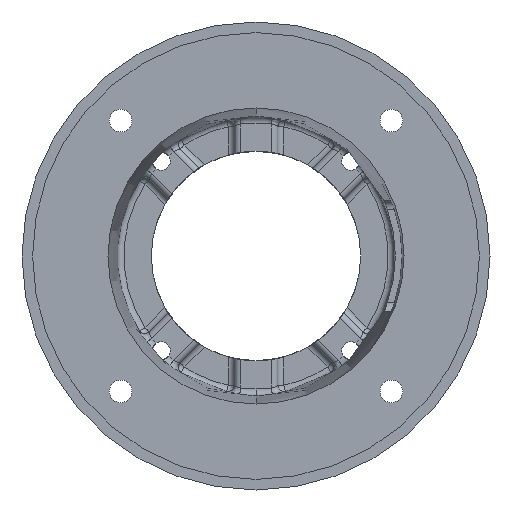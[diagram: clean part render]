
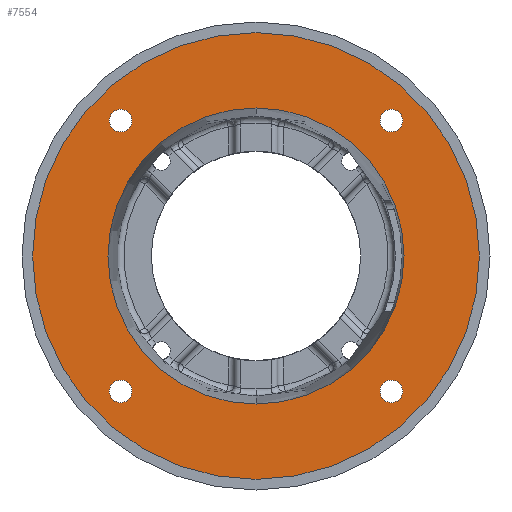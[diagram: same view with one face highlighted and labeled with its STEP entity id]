
A CAD part, front view. The second image highlights one B-rep face of the part: STEP entity #7554.
In plain terms, the highlighted planar face has unit normal (0, -1, 0).
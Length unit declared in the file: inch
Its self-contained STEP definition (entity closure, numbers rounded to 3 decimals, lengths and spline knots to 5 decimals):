
#56 = CIRCLE ( 'NONE', #5977, 0.26562 ) ;
#164 = FACE_OUTER_BOUND ( 'NONE', #5338, .T. ) ;
#324 = DIRECTION ( 'NONE',  ( 0., 0., -1. ) ) ;
#569 = CARTESIAN_POINT ( 'NONE',  ( 0., 0.18, 0. ) ) ;
#626 = DIRECTION ( 'NONE',  ( 0., 0., -1. ) ) ;
#639 = AXIS2_PLACEMENT_3D ( 'NONE', #1661, #9591, #2807 ) ;
#913 = FACE_BOUND ( 'NONE', #11553, .T. ) ;
#1069 = EDGE_CURVE ( 'NONE', #9362, #13966, #6287, .T. ) ;
#1098 = CARTESIAN_POINT ( 'NONE',  ( 3.18198, 0.18, -3.44761 ) ) ;
#1114 = EDGE_CURVE ( 'NONE', #13966, #9362, #11782, .T. ) ;
#1309 = DIRECTION ( 'NONE',  ( 0., -1., 0. ) ) ;
#1535 = EDGE_LOOP ( 'NONE', ( #6764, #6964 ) ) ;
#1562 = AXIS2_PLACEMENT_3D ( 'NONE', #11783, #5169, #12865 ) ;
#1661 = CARTESIAN_POINT ( 'NONE',  ( -3.18198, 0.18, 3.18198 ) ) ;
#1739 = DIRECTION ( 'NONE',  ( 0., 0., -1. ) ) ;
#1976 = DIRECTION ( 'NONE',  ( 0., -1., 0. ) ) ;
#1997 = VERTEX_POINT ( 'NONE', #3609 ) ;
#2085 = EDGE_CURVE ( 'NONE', #3018, #13307, #9582, .T. ) ;
#2229 = EDGE_CURVE ( 'NONE', #8135, #10554, #8881, .T. ) ;
#2246 = CARTESIAN_POINT ( 'NONE',  ( -3.18198, 0.18, -2.91636 ) ) ;
#2419 = CIRCLE ( 'NONE', #12586, 5.2505 ) ;
#2807 = DIRECTION ( 'NONE',  ( 0., 0., -1. ) ) ;
#2975 = ORIENTED_EDGE ( 'NONE', *, *, #8793, .F. ) ;
#3018 = VERTEX_POINT ( 'NONE', #13304 ) ;
#3032 = VERTEX_POINT ( 'NONE', #2246 ) ;
#3242 = FACE_BOUND ( 'NONE', #3506, .T. ) ;
#3403 = ORIENTED_EDGE ( 'NONE', *, *, #9273, .F. ) ;
#3506 = EDGE_LOOP ( 'NONE', ( #13192, #9774 ) ) ;
#3609 = CARTESIAN_POINT ( 'NONE',  ( -3.18198, 0.18, 3.44761 ) ) ;
#3804 = DIRECTION ( 'NONE',  ( 0., 1., 0. ) ) ;
#3947 = CIRCLE ( 'NONE', #11950, 3.47973 ) ;
#4236 = ORIENTED_EDGE ( 'NONE', *, *, #12704, .T. ) ;
#5147 = EDGE_CURVE ( 'NONE', #14151, #3032, #9326, .T. ) ;
#5169 = DIRECTION ( 'NONE',  ( 0., 1., 0. ) ) ;
#5338 = EDGE_LOOP ( 'NONE', ( #13432, #8071 ) ) ;
#5498 = ORIENTED_EDGE ( 'NONE', *, *, #2085, .F. ) ;
#5570 = CIRCLE ( 'NONE', #1562, 3.47973 ) ;
#5669 = DIRECTION ( 'NONE',  ( 0., -1., 0. ) ) ;
#5681 = CARTESIAN_POINT ( 'NONE',  ( -3.18198, 0.18, -3.18198 ) ) ;
#5738 = AXIS2_PLACEMENT_3D ( 'NONE', #13716, #7235, #324 ) ;
#5977 = AXIS2_PLACEMENT_3D ( 'NONE', #5681, #13352, #6828 ) ;
#6093 = DIRECTION ( 'NONE',  ( 0., -1., 0. ) ) ;
#6208 = AXIS2_PLACEMENT_3D ( 'NONE', #12913, #12864, #12676 ) ;
#6287 = CIRCLE ( 'NONE', #6208, 0.26562 ) ;
#6326 = FACE_BOUND ( 'NONE', #14071, .T. ) ;
#6382 = AXIS2_PLACEMENT_3D ( 'NONE', #8193, #1309, #9268 ) ;
#6763 = VERTEX_POINT ( 'NONE', #11982 ) ;
#6764 = ORIENTED_EDGE ( 'NONE', *, *, #1069, .F. ) ;
#6828 = DIRECTION ( 'NONE',  ( 0., 0., -1. ) ) ;
#6883 = AXIS2_PLACEMENT_3D ( 'NONE', #12656, #6093, #13724 ) ;
#6902 = CARTESIAN_POINT ( 'NONE',  ( 3.18198, 0.18, 3.44761 ) ) ;
#6964 = ORIENTED_EDGE ( 'NONE', *, *, #1114, .F. ) ;
#7235 = DIRECTION ( 'NONE',  ( 0., -1., 0. ) ) ;
#7543 = DIRECTION ( 'NONE',  ( 0., -1., 0. ) ) ;
#7554 = ADVANCED_FACE ( 'NONE', ( #913, #6326, #12139, #3242, #164, #11816 ), #8786, .T. ) ;
#7761 = AXIS2_PLACEMENT_3D ( 'NONE', #10943, #10847, #10751 ) ;
#8071 = ORIENTED_EDGE ( 'NONE', *, *, #2229, .T. ) ;
#8135 = VERTEX_POINT ( 'NONE', #14165 ) ;
#8193 = CARTESIAN_POINT ( 'NONE',  ( -3.18198, 0.18, 3.18198 ) ) ;
#8273 = CARTESIAN_POINT ( 'NONE',  ( 3.18198, 0.18, -2.91636 ) ) ;
#8411 = CIRCLE ( 'NONE', #6382, 0.26562 ) ;
#8579 = DIRECTION ( 'NONE',  ( 0., -1., 0. ) ) ;
#8786 = PLANE ( 'NONE',  #9678 ) ;
#8793 = EDGE_CURVE ( 'NONE', #1997, #6763, #10966, .T. ) ;
#8849 = CARTESIAN_POINT ( 'NONE',  ( -3.18198, 0.18, -3.44761 ) ) ;
#8856 = VERTEX_POINT ( 'NONE', #9875 ) ;
#8881 = CIRCLE ( 'NONE', #13445, 5.2505 ) ;
#8963 = CARTESIAN_POINT ( 'NONE',  ( 0., 0.18, -3.47973 ) ) ;
#9081 = EDGE_CURVE ( 'NONE', #13799, #8856, #3947, .T. ) ;
#9268 = DIRECTION ( 'NONE',  ( 0., 0., -1. ) ) ;
#9273 = EDGE_CURVE ( 'NONE', #13307, #3018, #11879, .T. ) ;
#9326 = CIRCLE ( 'NONE', #5738, 0.26562 ) ;
#9362 = VERTEX_POINT ( 'NONE', #1098 ) ;
#9512 = AXIS2_PLACEMENT_3D ( 'NONE', #12238, #5669, #13343 ) ;
#9582 = CIRCLE ( 'NONE', #6883, 0.26562 ) ;
#9591 = DIRECTION ( 'NONE',  ( 0., -1., 0. ) ) ;
#9678 = AXIS2_PLACEMENT_3D ( 'NONE', #13042, #1976, #9887 ) ;
#9710 = EDGE_CURVE ( 'NONE', #3032, #14151, #56, .T. ) ;
#9774 = ORIENTED_EDGE ( 'NONE', *, *, #9710, .F. ) ;
#9829 = EDGE_CURVE ( 'NONE', #10554, #8135, #2419, .T. ) ;
#9875 = CARTESIAN_POINT ( 'NONE',  ( 0., 0.18, 3.47973 ) ) ;
#9887 = DIRECTION ( 'NONE',  ( 0., 0., -1. ) ) ;
#10518 = CARTESIAN_POINT ( 'NONE',  ( 0., 0.18, 0. ) ) ;
#10554 = VERTEX_POINT ( 'NONE', #12172 ) ;
#10751 = DIRECTION ( 'NONE',  ( 0., 0., -1. ) ) ;
#10847 = DIRECTION ( 'NONE',  ( 0., -1., 0. ) ) ;
#10943 = CARTESIAN_POINT ( 'NONE',  ( 3.18198, 0.18, -3.18198 ) ) ;
#10966 = CIRCLE ( 'NONE', #639, 0.26562 ) ;
#11553 = EDGE_LOOP ( 'NONE', ( #13655, #2975 ) ) ;
#11600 = DIRECTION ( 'NONE',  ( 0., 0., -1. ) ) ;
#11782 = CIRCLE ( 'NONE', #7761, 0.26562 ) ;
#11783 = CARTESIAN_POINT ( 'NONE',  ( 0., 0.18, 0. ) ) ;
#11816 = FACE_BOUND ( 'NONE', #12114, .T. ) ;
#11879 = CIRCLE ( 'NONE', #9512, 0.26562 ) ;
#11950 = AXIS2_PLACEMENT_3D ( 'NONE', #10518, #3804, #11600 ) ;
#11982 = CARTESIAN_POINT ( 'NONE',  ( -3.18198, 0.18, 2.91636 ) ) ;
#12114 = EDGE_LOOP ( 'NONE', ( #14091, #4236 ) ) ;
#12139 = FACE_BOUND ( 'NONE', #1535, .T. ) ;
#12172 = CARTESIAN_POINT ( 'NONE',  ( 0., 0.18, -5.2505 ) ) ;
#12238 = CARTESIAN_POINT ( 'NONE',  ( 3.18198, 0.18, 3.18198 ) ) ;
#12586 = AXIS2_PLACEMENT_3D ( 'NONE', #569, #8579, #1739 ) ;
#12656 = CARTESIAN_POINT ( 'NONE',  ( 3.18198, 0.18, 3.18198 ) ) ;
#12676 = DIRECTION ( 'NONE',  ( 0., 0., -1. ) ) ;
#12704 = EDGE_CURVE ( 'NONE', #8856, #13799, #5570, .T. ) ;
#12864 = DIRECTION ( 'NONE',  ( 0., -1., 0. ) ) ;
#12865 = DIRECTION ( 'NONE',  ( 0., 0., -1. ) ) ;
#12913 = CARTESIAN_POINT ( 'NONE',  ( 3.18198, 0.18, -3.18198 ) ) ;
#13042 = CARTESIAN_POINT ( 'NONE',  ( 0., 0.18, 0. ) ) ;
#13192 = ORIENTED_EDGE ( 'NONE', *, *, #5147, .F. ) ;
#13304 = CARTESIAN_POINT ( 'NONE',  ( 3.18198, 0.18, 2.91636 ) ) ;
#13307 = VERTEX_POINT ( 'NONE', #6902 ) ;
#13343 = DIRECTION ( 'NONE',  ( 0., 0., -1. ) ) ;
#13352 = DIRECTION ( 'NONE',  ( 0., -1., 0. ) ) ;
#13367 = EDGE_CURVE ( 'NONE', #6763, #1997, #8411, .T. ) ;
#13432 = ORIENTED_EDGE ( 'NONE', *, *, #9829, .T. ) ;
#13445 = AXIS2_PLACEMENT_3D ( 'NONE', #14002, #7543, #626 ) ;
#13655 = ORIENTED_EDGE ( 'NONE', *, *, #13367, .F. ) ;
#13716 = CARTESIAN_POINT ( 'NONE',  ( -3.18198, 0.18, -3.18198 ) ) ;
#13724 = DIRECTION ( 'NONE',  ( 0., 0., -1. ) ) ;
#13799 = VERTEX_POINT ( 'NONE', #8963 ) ;
#13966 = VERTEX_POINT ( 'NONE', #8273 ) ;
#14002 = CARTESIAN_POINT ( 'NONE',  ( 0., 0.18, 0. ) ) ;
#14071 = EDGE_LOOP ( 'NONE', ( #5498, #3403 ) ) ;
#14091 = ORIENTED_EDGE ( 'NONE', *, *, #9081, .T. ) ;
#14151 = VERTEX_POINT ( 'NONE', #8849 ) ;
#14165 = CARTESIAN_POINT ( 'NONE',  ( 0., 0.18, 5.2505 ) ) ;
